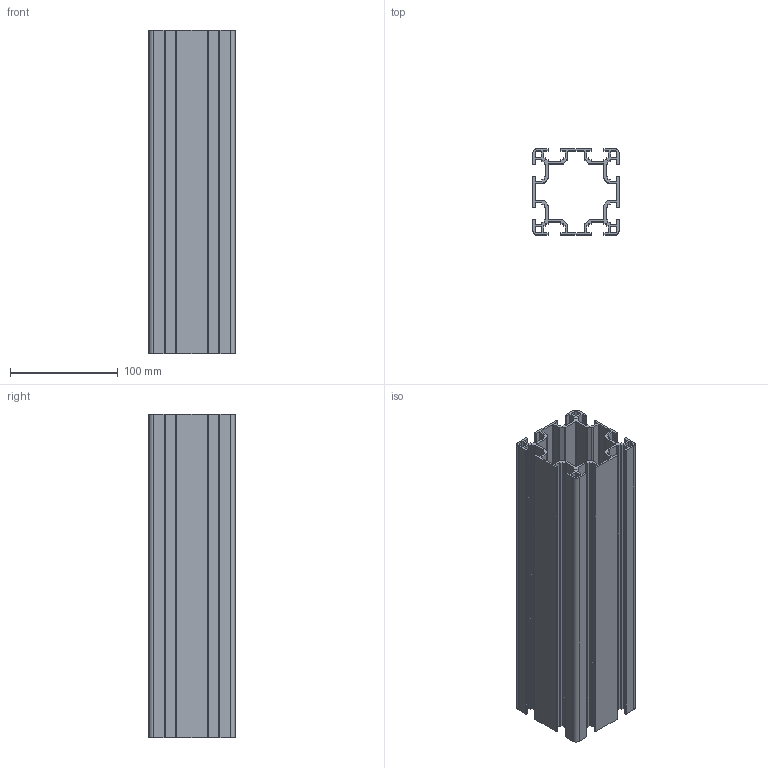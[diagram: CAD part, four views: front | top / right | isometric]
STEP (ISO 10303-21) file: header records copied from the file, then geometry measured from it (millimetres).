
FILE_DESCRIPTION((''),'2;1');
FILE_NAME('X:\Ritarkiv\STEP-Carryline Standarddelar\100-1030.stp','2009-05-26T09:51:36',('marcus'),(''),'Autodesk Inventor 2009','Autodesk Inventor 2009','');
FILE_SCHEMA(('AUTOMOTIVE_DESIGN { 1 0 10303 214 1 1 1 1 }'));
Length unit declared in the file: millimetre
Products named in the file (2): Assembly3; 100-1030-01
Assembly tree (1 placements, depth 2):
  Assembly3
    100-1030-01
Bounding box: 80 x 80 x 300 mm (x, y, z)
Volume: 331820.5 mm3; surface area: 302882.2 mm2
Topology: 1 solids, 1 shells, 290 faces, 864 edges, 576 vertices
Faces by surface type: plane 178, cylinder 112
Entity records: 9824 total; most frequent: CARTESIAN_POINT 1733, ORIENTED_EDGE 1728, DIRECTION 1674, EDGE_CURVE 864, VECTOR 640, LINE 640, VERTEX_POINT 576, AXIS2_PLACEMENT_3D 517
